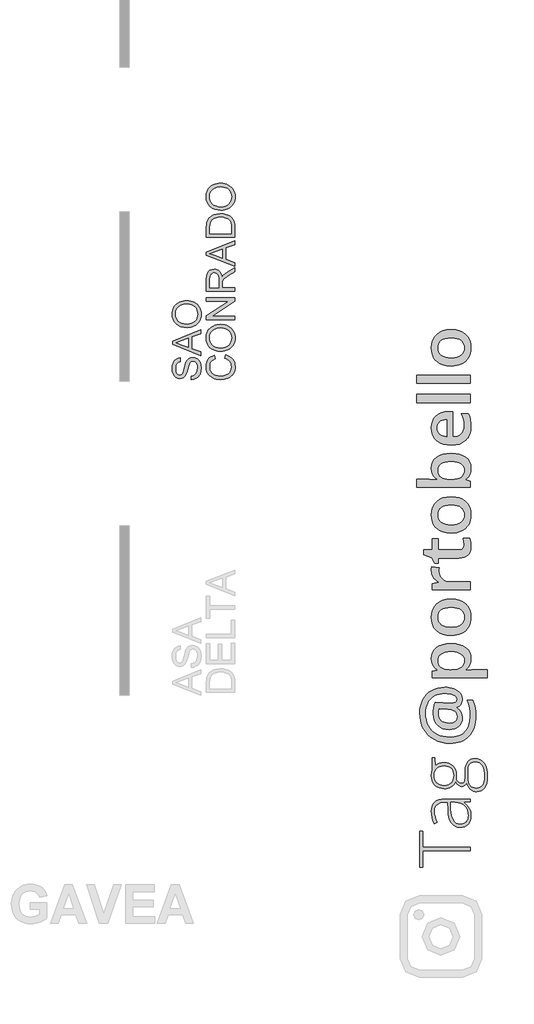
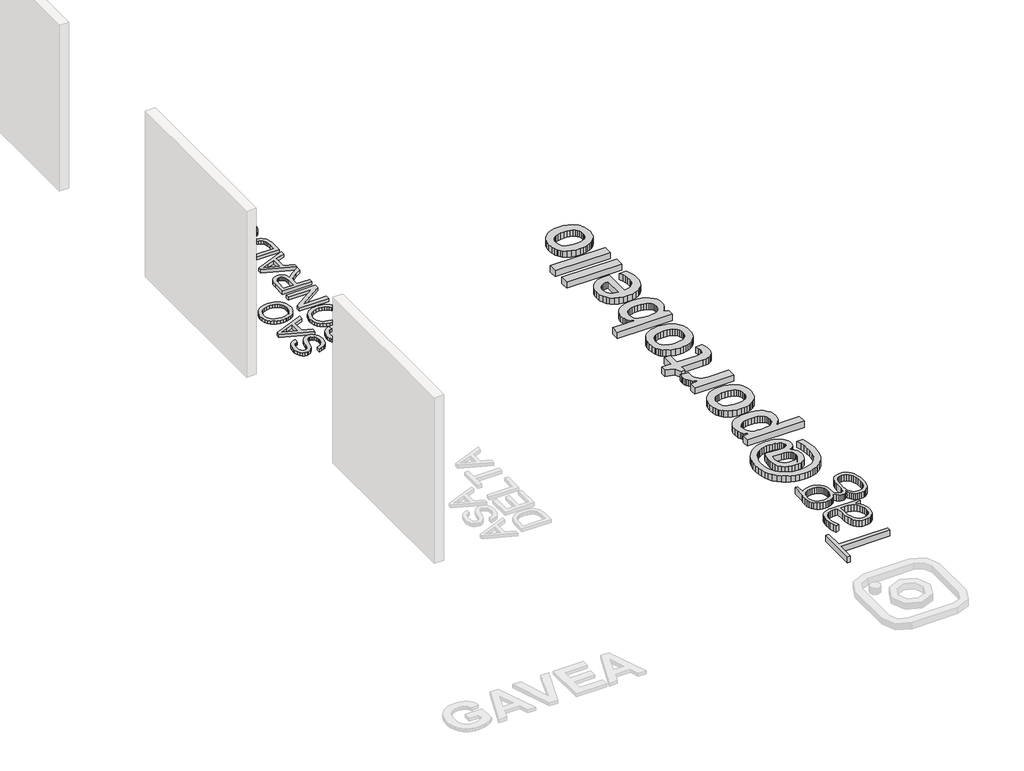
# One storey, part 4 of 7: 3 proxies.
"""IFC4 building model written with IfcOpenShell, lengths in millimetres."""

from ifc_helpers import new_model, si_unit, origin, origin_with_axes, place, context, project, spatial, polyline, outline, extrude, element, save

model = new_model("IFC4")

# Units and contexts
model_context = context("Model", 3, world=origin())
ifc_project = project(units=[si_unit("LENGTHUNIT", "METRE", prefix="MILLI")], contexts=[model_context])

# Site, building, storey
site = spatial("IfcSite", under=ifc_project)
building = spatial("IfcBuilding", under=site)
storey = spatial("IfcBuildingStorey", under=building, Name="PORTOBELLO - SHOWROOM", Elevation=0.0)

# Proxies
placement = place(None, origin())
element("IfcBuildingElementProxy", 1, Name="450mm Arial", ObjectType="450mm Arial", at=placement, inside=storey, context=model_context, shape_type="SweptSolid", body=[
    extrude(outline(polyline([(48093.7700581, -4146.9231835), (48093.7700581, -4090.7161656), (48124.9611107, -4084.2666299), (48150.0319656, -4072.6025759), (48169.9294695, -4054.4066517), (48185.6004691, -4028.3615052), (48195.7687797, -3996.525499), (48199.1582166, -3960.9569955), (48196.5921247, -3929.6424411), (48188.8938491, -3902.225053), (48176.7083432, -3880.0084608), (48160.6805608, -3864.2962939), (48142.2788003, -3854.9513283), (48122.9713604, -3851.8363398), (48104.1579274, -3854.1691506), (48087.8968639, -3861.167583), (48074.0235008, -3875.3840064), (48062.3731692, -3899.3707904), (48040.9113099, -3981.2112822), (48026.7086088, -4034.9345427), (48013.1920286, -4069.3091959), (47994.2825387, -4097.2892031), (47971.3661032, -4117.1180949), (47944.9367291, -4128.9330955), (47915.4884234, -4132.871429), (47882.5683463, -4127.9999712), (47851.8713006, -4113.3855976), (47825.853599, -4089.4125361), (47806.9715539, -4056.4650141), (47795.4858913, -4016.9170099), (47791.6573372, -3973.1425013), (47795.6642828, -3925.71783), (47807.6851196, -3884.2212426), (47827.4728441, -3850.1347601), (47854.7804529, -3824.9404035), (47887.9063663, -3808.9949556), (47925.1490046, -3802.6551991), (47925.1490046, -3858.862217), (47907.2138062, -3862.6221591), (47891.6114187, -3869.1814742), (47878.341842, -3878.5401622), (47867.4050761, -3890.6982232), (47858.8560106, -3905.882077), (47852.7495353, -3924.3181435), (47847.864355, -3970.9469147), (47852.6946456, -4018.6734792), (47858.7325088, -4036.9174319), (47867.1855174, -4051.4151649), (47888.5101526, -4070.3520996), (47900.6750748, -4075.0863333), (47913.8417334, -4076.6644112), (47935.4408169, -4072.1909034), (47952.8133962, -4058.7703801), (47968.3471716, -4027.0441532), (47984.210285, -3966.9948588), (47999.2774983, -3905.024426), (48012.4235733, -3867.5347842), (48032.8150842, -3835.4929418), (48057.981996, -3813.1391253), (48087.6498604, -3800.0067728), (48121.544229, -3795.6293219), (48156.1933306, -3800.6654488), (48188.7840697, -3815.7738293), (48216.832689, -3840.3369548), (48237.855431, -3873.7373164), (48250.9877836, -3913.9028294), (48255.3652344, -3958.7614089), (48250.6447232, -4013.8294662), (48236.4831894, -4059.1546078), (48225.8483166, -4078.2939481), (48212.8257434, -4095.2582855), (48197.4154697, -4110.0476198), (48179.6174955, -4122.6619512), (48139.1638118, -4140.2540891), (48093.7700581, -4146.9231835)])), origin_with_axes(), (0.0, 0.0, 1.0), 50.0),
    extrude(outline(polyline([(48248.3393572, -3763.6835364), (47798.6832144, -3584.194329), (47798.6832144, -3536.3305403), (48248.3393572, -3356.8413329), (48248.3393572, -3416.2319514), (48107.8218126, -3467.718458), (48107.8218126, -3652.9161906), (48248.3393572, -3704.2929179), (48248.3393572, -3763.6835364)]), holes=[polyline([(48051.6147947, -3632.2776763), (48051.6147947, -3488.247193), (47941.0670077, -3528.7557664), (47854.8902322, -3560.2624347), (47931.4064265, -3588.2561643), (48051.6147947, -3632.2776763)])]), origin_with_axes(), (0.0, 0.0, 1.0), 50.0),
    extrude(outline(polyline([(48029.4393697, -3317.8696702), (47976.697262, -3314.1234505), (47930.00674, -3302.8847914), (47889.3678036, -3284.1536929), (47854.7804529, -3257.930155), (47827.1640898, -3225.7853945), (47807.4381161, -3189.2906279), (47795.6025319, -3148.4458552), (47791.6573372, -3103.2510766), (47793.5098634, -3073.0000095), (47799.067442, -3044.2721306), (47808.3300732, -3017.06744), (47821.2977567, -2991.3859376), (47837.5794039, -2967.9480502), (47856.7839257, -2947.4742049), (47878.9113223, -2929.9644015), (47903.9615935, -2915.41864), (47931.3652592, -2903.9878671), (47960.552839, -2895.8230293), (47991.524333, -2890.9241266), (48024.2797411, -2889.291159), (48057.4674053, -2891.0098917), (48088.857433, -2896.1660897), (48118.4498241, -2904.759753), (48146.2445787, -2916.7908816), (48171.5075474, -2931.9747355), (48193.504581, -2950.0265743), (48212.2356795, -2970.9463982), (48227.7008428, -2994.7342072), (48239.8040142, -3020.4534462), (48248.4491365, -3047.1675605), (48253.63621, -3074.87655), (48255.3652344, -3103.5804146), (48253.4543879, -3134.3597947), (48247.7218485, -3163.4650401), (48238.167616, -3190.8961506), (48224.7916905, -3216.6531263), (48208.1120933, -3240.0635688), (48188.6468456, -3260.4550797), (48166.3959473, -3277.8276589), (48141.3593984, -3292.1813065), (48114.542366, -3303.4199656), (48086.9500171, -3311.4475793), (48058.5823517, -3316.2641474), (48029.4393697, -3317.8696702)]), holes=[polyline([(48029.9882664, -3261.6626523), (48067.2514883, -3258.8529875), (48100.3293732, -3250.4239932), (48129.2219211, -3236.3756694), (48153.9291319, -3216.708016), (48173.7168565, -3192.8001359), (48187.8509454, -3166.031132), (48196.3313988, -3136.4010042), (48199.1582166, -3103.9097526), (48196.303954, -3070.8627431), (48187.7411661, -3040.8826938), (48173.469853, -3013.9696045), (48153.4900146, -2990.1234753), (48128.2613519, -2970.5999072), (48098.2435659, -2956.6545015), (48063.4366565, -2948.287258), (48023.8406238, -2945.4981769), (47974.0831417, -2950.2735778), (47931.0770885, -2964.5997806), (47895.9065351, -2988.10628), (47869.6555524, -3020.4225708), (47853.3121543, -3059.407956), (47847.864355, -3102.9217386), (47850.4887672, -3134.2843215), (47858.3620036, -3163.3827056), (47871.4840644, -3190.216891), (47889.8549494, -3214.7868777), (47914.3597546, -3235.2950291), (47945.8835758, -3249.9437087), (47984.4264131, -3258.7329164), (48029.9882664, -3261.6626523)])]), origin_with_axes(), (0.0, 0.0, 1.0), 50.0),
    extrude(outline(polyline([(48628.9327334, -3809.6810764), (48643.4236052, -3753.4740585), (48678.3780305, -3764.5960771), (48708.920699, -3779.4094256), (48735.0516105, -3797.9141043), (48756.7707652, -3820.1101129), (48773.8448819, -3845.4965834), (48786.0406795, -3873.5726474), (48793.3581581, -3904.3383052), (48795.7973176, -3937.7935565), (48793.9516526, -3972.0687223), (48788.4146576, -4002.9887572), (48779.1863325, -4030.5536612), (48766.2666774, -4054.7634345), (48749.8478061, -4075.9508455), (48730.1218324, -4094.4486629), (48707.0887564, -4110.2568867), (48680.7485779, -4123.3755168), (48622.7027563, -4141.0362668), (48560.5402097, -4146.9231835), (48526.6389798, -4145.2593405), (48494.9745038, -4140.2678115), (48465.5467817, -4131.9485965), (48438.3558135, -4120.3016955), (48413.8510083, -4105.5878345), (48392.4817752, -4088.0677393), (48374.2481143, -4067.7414099), (48359.1500256, -4044.6088463), (48347.3110108, -4019.4556569), (48338.8545717, -3993.0674501), (48333.7807082, -3965.4442257), (48332.0894203, -3936.5859839), (48334.2781458, -3904.4377927), (48340.844322, -3874.9586115), (48351.7879492, -3848.1484403), (48367.1090272, -3824.0072792), (48386.4027447, -3802.9330781), (48409.2642905, -3785.3237871), (48435.6936647, -3771.1794064), (48465.6908671, -3760.4999358), (48479.0839455, -3816.7069536), (48438.0950875, -3836.192785), (48422.4275185, -3848.6115719), (48409.9778562, -3862.8142729), (48400.4922358, -3878.8832226), (48393.7167927, -3896.9007554), (48388.2964382, -3938.7815705), (48389.7990428, -3963.9965108), (48394.3068566, -3987.0570316), (48401.8198796, -4007.9631331), (48412.3381118, -4026.7148152), (48425.3881299, -4043.0753663), (48440.4965104, -4056.8080745), (48457.6632534, -4067.9129401), (48476.8883589, -4076.3899628), (48518.0281635, -4087.1346149), (48560.4304304, -4090.7161656), (48612.3560543, -4086.4759389), (48657.255801, -4073.7552589), (48676.6421448, -4064.0946777), (48693.4143683, -4052.0738409), (48707.5724715, -4037.6927484), (48719.1164544, -4020.9514003), (48734.4718384, -3983.6401499), (48739.5902998, -3943.3923024), (48737.8475529, -3918.9561093), (48732.6193122, -3896.4753605), (48723.9055777, -3875.9500561), (48711.7063495, -3857.380196), (48696.0765171, -3841.2048976), (48677.0709703, -3827.8632782), (48654.6897091, -3817.3553378), (48628.9327334, -3809.6810764)])), origin_with_axes(), (0.0, 0.0, 1.0), 50.0),
    extrude(outline(polyline([(48569.8714529, -3697.2670407), (48517.1293452, -3693.520821), (48470.4388232, -3682.2821619), (48429.7998868, -3663.5510634), (48395.2125361, -3637.3275255), (48367.5961729, -3605.182765), (48347.8701993, -3568.6879984), (48336.0346151, -3527.8432258), (48332.0894203, -3482.6484471), (48333.9419466, -3452.39738), (48339.4995252, -3423.6695011), (48348.7621563, -3396.4648105), (48361.7298399, -3370.7833081), (48378.011487, -3347.3454207), (48397.2160089, -3326.8715754), (48419.3434054, -3309.361772), (48444.3936767, -3294.8160105), (48471.7973424, -3283.3852376), (48500.9849222, -3275.2203998), (48531.9564162, -3270.3214971), (48564.7118243, -3268.6885295), (48597.8994885, -3270.4072622), (48629.2895162, -3275.5634602), (48658.8819073, -3284.1571235), (48686.6766619, -3296.1882521), (48711.9396306, -3311.372106), (48733.9366642, -3329.4239448), (48752.6677627, -3350.3437687), (48768.132926, -3374.1315777), (48780.2360973, -3399.8508168), (48788.8812197, -3426.564931), (48794.0682931, -3454.2739205), (48795.7973176, -3482.9777851), (48793.8864711, -3513.7571652), (48788.1539316, -3542.8624106), (48778.5996992, -3570.2935211), (48765.2237737, -3596.0504968), (48748.5441765, -3619.4609393), (48729.0789287, -3639.8524502), (48706.8280304, -3657.2250294), (48681.7914816, -3671.578677), (48654.9744492, -3682.8173361), (48627.3821003, -3690.8449498), (48599.0144349, -3695.6615179), (48569.8714529, -3697.2670407)]), holes=[polyline([(48570.4203495, -3641.0600228), (48607.6835715, -3638.250358), (48640.7614564, -3629.8213637), (48669.6540042, -3615.7730399), (48694.3612151, -3596.1053865), (48714.1489396, -3572.1975064), (48728.2830286, -3545.4285025), (48736.763482, -3515.7983747), (48739.5902998, -3483.3071231), (48736.7360371, -3450.2601136), (48728.1732493, -3420.2800643), (48713.9019361, -3393.366975), (48693.9220978, -3369.5208458), (48668.6934351, -3349.9972777), (48638.6756491, -3336.051872), (48603.8687397, -3327.6846285), (48564.272707, -3324.8955474), (48514.5152249, -3329.6709483), (48471.5091716, -3343.9971511), (48436.3386182, -3367.5036505), (48410.0876355, -3399.8199413), (48393.7442375, -3438.8053265), (48388.2964382, -3482.3191091), (48390.9208503, -3513.681692), (48398.7940868, -3542.7800761), (48411.9161475, -3569.6142615), (48430.2870326, -3594.1842482), (48454.7918378, -3614.6923996), (48486.315659, -3629.3410792), (48524.8584963, -3638.1302869), (48570.4203495, -3641.0600228)])]), origin_with_axes(), (0.0, 0.0, 1.0), 50.0),
    extrude(outline(polyline([(48788.7714404, -3191.40388), (48339.1152976, -3191.40388), (48339.1152976, -3131.2448062), (48695.3492291, -2896.3170363), (48339.1152976, -2896.3170363), (48339.1152976, -2840.1100184), (48788.7714404, -2840.1100184), (48788.7714404, -2900.2690922), (48432.4277295, -3135.1968621), (48788.7714404, -3135.1968621), (48788.7714404, -3191.40388)])), origin_with_axes(), (0.0, 0.0, 1.0), 50.0),
    extrude(outline(polyline([(48788.7714404, -2741.7477372), (48339.1152976, -2741.7477372), (48339.1152976, -2547.9872167), (48342.1479516, -2495.9106462), (48351.2459137, -2458.0230543), (48368.0421515, -2430.3312179), (48394.1696324, -2408.8419137), (48426.5682577, -2395.0508851), (48462.1779284, -2390.4538756), (48485.2727554, -2392.3578609), (48506.4738888, -2398.0698167), (48525.7813288, -2407.5897432), (48543.1950753, -2420.9176402), (48558.1593704, -2438.2250379), (48570.1184564, -2459.6834667), (48579.0723331, -2485.2929264), (48585.0210007, -2515.0534171), (48609.0626743, -2483.1076316), (48666.9163821, -2437.5492089), (48788.7714404, -2362.5699253), (48788.7714404, -2427.8886277), (48695.5687877, -2486.4010116), (48633.8728033, -2528.6660543), (48615.8827153, -2544.3782211), (48604.7263907, -2558.3613635), (48594.0229059, -2585.0926308), (48592.0468779, -2617.6970923), (48592.0468779, -2685.5407193), (48788.7714404, -2685.5407193), (48788.7714404, -2741.7477372)]), holes=[polyline([(48535.83986, -2685.5407193), (48535.83986, -2559.7336052), (48533.8501097, -2523.6024826), (48527.8808585, -2495.5675858), (48517.5341565, -2474.4625092), (48502.4120535, -2459.1208476), (48484.1200724, -2449.775882), (48464.2637358, -2446.6608935), (48449.8895045, -2448.146345), (48436.8463476, -2452.6026998), (48414.7532571, -2470.4281188), (48406.2522201, -2484.0373253), (48400.1800508, -2501.0977196), (48395.3223154, -2545.5720714), (48395.3223154, -2685.5407193), (48535.83986, -2685.5407193)])]), origin_with_axes(), (0.0, 0.0, 1.0), 50.0),
    extrude(outline(polyline([(48788.7714404, -2344.4563356), (48339.1152976, -2164.9671282), (48339.1152976, -2117.1033396), (48788.7714404, -1937.6141322), (48788.7714404, -1997.0047506), (48648.2538958, -2048.4912572), (48648.2538958, -2233.6889899), (48788.7714404, -2285.0657171), (48788.7714404, -2344.4563356)]), holes=[polyline([(48592.0468779, -2213.0504755), (48592.0468779, -2069.0199923), (48481.4990908, -2109.5285657), (48395.3223154, -2141.0352339), (48471.8385096, -2169.0289635), (48592.0468779, -2213.0504755)])]), origin_with_axes(), (0.0, 0.0, 1.0), 50.0),
    extrude(outline(polyline([(48788.7714404, -1877.5648377), (48339.1152976, -1877.5648377), (48339.1152976, -1722.446642), (48340.7345427, -1676.0923191), (48345.5922781, -1642.1979505), (48358.0796771, -1606.3549986), (48377.7576223, -1576.1107927), (48412.0087738, -1545.015797), (48454.6031546, -1522.8678168), (48504.7174195, -1509.6119625), (48561.5282237, -1505.1933444), (48609.7899624, -1508.1848312), (48652.2608414, -1517.1592916), (48688.4194088, -1530.8268184), (48717.7442127, -1547.8975045), (48740.8939293, -1567.5480049), (48758.5272345, -1588.9549746), (48771.6046974, -1613.5318224), (48781.0868872, -1642.6919574), (48786.8503021, -1676.4902692), (48788.7714404, -1714.9816474), (48788.7714404, -1877.5648377)]), holes=[polyline([(48732.5644225, -1821.3578199), (48732.5644225, -1721.8977453), (48730.5335049, -1680.7579407), (48724.440752, -1649.5531657), (48714.6429466, -1626.005499), (48701.4968716, -1607.8370196), (48677.1670272, -1588.310021), (48645.6740815, -1573.6407578), (48606.8808101, -1564.4604612), (48560.649989, -1561.4003623), (48528.0180827, -1562.8995363), (48499.3931219, -1567.3970583), (48474.7751068, -1574.8929283), (48454.1640372, -1585.3871463), (48423.0964863, -1611.967467), (48412.1734428, -1627.2027799), (48404.3242206, -1643.7348611), (48397.5727917, -1676.0648743), (48395.3223154, -1723.4346559), (48395.3223154, -1821.3578199), (48732.5644225, -1821.3578199)])]), origin_with_axes(), (0.0, 0.0, 1.0), 50.0),
    extrude(outline(polyline([(48569.8714529, -1448.9863266), (48517.1293452, -1445.2401069), (48470.4388232, -1434.0014478), (48429.7998868, -1415.2703493), (48395.2125361, -1389.0468115), (48367.5961729, -1356.9020509), (48347.8701993, -1320.4072843), (48336.0346151, -1279.5625117), (48332.0894203, -1234.367733), (48333.9419466, -1204.1166659), (48339.4995252, -1175.388787), (48348.7621563, -1148.1840964), (48361.7298399, -1122.502594), (48378.011487, -1099.0647067), (48397.2160089, -1078.5908613), (48419.3434054, -1061.0810579), (48444.3936767, -1046.5352964), (48471.7973424, -1035.1045235), (48500.9849222, -1026.9396857), (48531.9564162, -1022.040783), (48564.7118243, -1020.4078155), (48597.8994885, -1022.1265481), (48629.2895162, -1027.2827461), (48658.8819073, -1035.8764094), (48686.6766619, -1047.9075381), (48711.9396306, -1063.0913919), (48733.9366642, -1081.1432307), (48752.6677627, -1102.0630547), (48768.132926, -1125.8508636), (48780.2360973, -1151.5701027), (48788.8812197, -1178.2842169), (48794.0682931, -1205.9932064), (48795.7973176, -1234.697071), (48793.8864711, -1265.4764512), (48788.1539316, -1294.5816965), (48778.5996992, -1322.012807), (48765.2237737, -1347.7697827), (48748.5441765, -1371.1802252), (48729.0789287, -1391.5717361), (48706.8280304, -1408.9443153), (48681.7914816, -1423.297963), (48654.9744492, -1434.536622), (48627.3821003, -1442.5642357), (48599.0144349, -1447.3808039), (48569.8714529, -1448.9863266)]), holes=[polyline([(48570.4203495, -1392.7793087), (48607.6835715, -1389.969644), (48640.7614564, -1381.5406496), (48669.6540042, -1367.4923258), (48694.3612151, -1347.8246724), (48714.1489396, -1323.9167923), (48728.2830286, -1297.1477884), (48736.763482, -1267.5176606), (48739.5902998, -1235.026409), (48736.7360371, -1201.9793996), (48728.1732493, -1171.9993502), (48713.9019361, -1145.0862609), (48693.9220978, -1121.2401317), (48668.6934351, -1101.7165636), (48638.6756491, -1087.7711579), (48603.8687397, -1079.4039145), (48564.272707, -1076.6148333), (48514.5152249, -1081.3902342), (48471.5091716, -1095.716437), (48436.3386182, -1119.2229364), (48410.0876355, -1151.5392272), (48393.7442375, -1190.5246124), (48388.2964382, -1234.038395), (48390.9208503, -1265.4009779), (48398.7940868, -1294.499362), (48411.9161475, -1321.3335474), (48430.2870326, -1345.9035341), (48454.7918378, -1366.4116855), (48486.315659, -1381.0603651), (48524.8584963, -1389.8495728), (48570.4203495, -1392.7793087)])]), origin_with_axes(), (0.0, 0.0, 1.0), 50.0),
])
element("IfcBuildingElementProxy", 2, Name="80mm OpenSans Bold", ObjectType="80mm OpenSans Bold", at=placement, inside=storey, context=model_context, shape_type="SweptSolid", body=[
    extrude(outline(polyline([(52135.8156709, -9049.9050274), (52173.9212856, -9051.4523873), (52210.3593571, -9056.0944669), (52245.1298855, -9063.8312662), (52278.2328706, -9074.6627853), (52308.7143578, -9088.3035888), (52335.6203921, -9104.4682415), (52358.9509734, -9123.1567432), (52378.7061018, -9144.369094), (52394.4275786, -9167.7146983), (52405.6572048, -9192.8029603), (52412.3949806, -9219.63388), (52414.6409058, -9248.2074574), (52408.9321995, -9288.8294097), (52401.7963166, -9306.9770867), (52391.8060806, -9323.6825641), (52379.3821329, -9338.3599485), (52364.945115, -9350.4233463), (52348.4950271, -9359.8727576), (52330.031869, -9366.7081822), (52330.031869, -9373.4384465), (52367.0483226, -9403.6044526), (52393.4886466, -9440.2603563), (52409.352841, -9482.6249663), (52414.6409058, -9529.9170913), (52411.0879873, -9572.5821596), (52400.4292317, -9610.4398962), (52382.664639, -9643.4903012), (52357.7942092, -9671.7333746), (52326.8545233, -9694.3428562), (52290.882162, -9710.4924859), (52249.8771254, -9720.1822637), (52203.8394136, -9723.4121897), (52150.6958646, -9719.1306599), (52102.7953117, -9706.2860707), (52060.1377549, -9684.878422), (52022.7231942, -9654.9077139), (51992.2792643, -9617.7260082), (51970.5336001, -9574.6853672), (51957.4862016, -9525.7857907), (51953.1370687, -9471.0272788), (51954.9698639, -9426.7096902), (51960.4682495, -9377.8852283), (51969.2115839, -9329.6616828), (51980.7792256, -9287.1468437), (52231.9623036, -9299.4055393), (52244.7017325, -9299.4055393), (52282.5594691, -9295.8000406), (52309.6007096, -9284.9835444), (52319.0651437, -9276.8711723), (52325.8254538, -9266.9560508), (52331.2337019, -9241.7175597), (52327.7709209, -9220.9634076), (52317.3825777, -9202.4476694), (52300.0686723, -9186.1703449), (52275.8292048, -9172.1314342), (52246.226558, -9160.8266934), (52212.8231146, -9152.7518786), (52175.6188746, -9147.9069897), (52134.613838, -9146.2920267), (52089.5225695, -9148.7107154), (52047.2706313, -9155.9667816), (52007.8580234, -9168.0602253), (51971.2847456, -9184.9910464), (51938.1442032, -9206.3836722), (51909.029801, -9231.8625298), (51883.941539, -9261.4276194), (51862.8794172, -9295.0789409), (51846.2114971, -9332.0803715), (51834.3058398, -9371.6957888), (51827.1624455, -9413.9251927), (51824.781314, -9458.7685831), (51827.7708734, -9515.7429744), (51836.7395515, -9568.8865234), (51851.6873483, -9618.1992299), (51872.6142638, -9663.6810941), (51899.0921451, -9704.6711078), (51930.6928391, -9740.5082628), (51967.416346, -9771.1925593), (52009.2626656, -9796.7239971), (52055.4506066, -9816.8096296), (52105.1989775, -9831.15651), (52158.5077785, -9839.7646382), (52215.3770095, -9842.6340143), (52289.5526344, -9837.2783464), (52354.6393978, -9821.2113427), (52383.7744566, -9809.1610899), (52410.6373, -9794.4330032), (52435.227928, -9777.0270825), (52457.5463407, -9756.9433278), (52477.4047516, -9734.3582585), (52494.6153745, -9709.4483936), (52509.1782092, -9682.2137331), (52521.0932558, -9652.6542772), (52536.9799845, -9586.5609786), (52542.2755608, -9511.1684979), (52539.180841, -9449.454378), (52529.8966818, -9386.418242), (52514.4230831, -9322.0600897), (52492.7600449, -9256.3799212), (52582.8975131, -9256.3799212), (52603.5089475, -9315.6002378), (52618.2314006, -9377.4044951), (52627.0648725, -9441.7926932), (52630.0093632, -9508.7648321), (52628.313652, -9558.3798747), (52623.2265187, -9605.1893887), (52614.7479631, -9649.1933739), (52602.8779852, -9690.3918305), (52587.6165851, -9728.7847584), (52568.9637628, -9764.3721575), (52546.9195183, -9797.154028), (52521.4838515, -9827.1303697), (52493.0135566, -9853.9180986), (52461.8654277, -9877.1341302), (52428.0394649, -9896.7784647), (52391.5356682, -9912.851102), (52352.3540375, -9925.3520421), (52310.4945728, -9934.281285), (52265.9572742, -9939.6388308), (52218.7421416, -9941.4246794), (52149.6743066, -9937.5637912), (52084.5274515, -9925.9811265), (52023.3015762, -9906.6766854), (51965.9966808, -9879.6504679), (51913.8972242, -9845.7738027), (51868.2876653, -9805.9180189), (51829.1680041, -9760.0831163), (51796.5382407, -9708.269095), (51770.8265279, -9651.6477421), (51752.4610187, -9591.3908446), (51741.4417132, -9527.4984026), (51737.7686114, -9459.970416), (51740.8332853, -9401.749123), (51750.0273071, -9346.7878018), (51765.3506767, -9295.0864523), (51786.8033941, -9246.6450746), (51813.9197491, -9202.4626923), (51846.2340314, -9163.5383289), (51883.7462411, -9129.8719846), (51926.4563781, -9101.4636592), (51973.5231594, -9078.9067578), (52024.105302, -9062.7946853), (52078.2028058, -9053.1274419), (52135.8156709, -9049.9050274)]), holes=[polyline([(52205.7623462, -9618.1316268), (52235.1696952, -9616.542954), (52260.6560643, -9611.7769353), (52282.2214536, -9603.8335709), (52299.865863, -9592.7128608), (52313.5892925, -9578.4148049), (52323.3917422, -9560.9394033), (52329.273212, -9540.2866559), (52331.2337019, -9516.4565627), (52328.7699445, -9491.1730029), (52321.3786721, -9468.9240712), (52309.0598848, -9449.7097675), (52291.8135825, -9433.530092), (52269.6397653, -9420.3850445), (52242.5384332, -9410.2746252), (52210.5095862, -9403.1988339), (52173.5532243, -9399.1576708), (52044.957103, -9392.4274065), (52038.1066554, -9428.7227604), (52035.8231729, -9467.42178), (52038.6850375, -9501.0355442), (52047.2706313, -9530.7283285), (52061.5799544, -9556.500133), (52081.6130067, -9578.3509575), (52106.5435281, -9595.7550004), (52135.5452585, -9608.1864595), (52168.6181979, -9615.645335), (52205.7623462, -9618.1316268)])]), origin_with_axes(), (0.0, 0.0, 1.0), 100.0),
    extrude(outline(polyline([(52553.092057, -8591.2855893), (52547.8941296, -8644.8422683), (52532.3003476, -8692.0592787), (52506.310711, -8732.9366205), (52469.9252197, -8767.4742937), (52469.9252197, -8775.1660244), (52563.9085531, -8767.4742937), (52814.610898, -8767.4742937), (52814.610898, -8896.3107816), (51937.7536075, -8896.3107816), (51937.7536075, -8791.9916851), (52014.9112802, -8773.9641914), (52014.9112802, -8767.4742937), (51993.221952, -8751.6439009), (51974.4245341, -8733.9581785), (51958.5190267, -8714.4171265), (51945.5054297, -8693.020745), (51935.3837432, -8669.769034), (51928.1539671, -8644.6619933), (51922.3701462, -8588.8819234), (51927.5305163, -8536.07639), (51943.0116265, -8489.4302502), (51968.8134767, -8448.9435041), (52004.9360671, -8414.6161516), (52050.3728625, -8387.2744529), (52104.1173279, -8367.7446682), (52166.1694633, -8356.0267973), (52236.5292687, -8352.1208403), (52307.0618376, -8356.0944004), (52369.3918968, -8368.0150806), (52423.5194464, -8387.8828808), (52469.4444865, -8415.6978012), (52506.0402986, -8450.5133983), (52532.1801643, -8491.3832287), (52547.8640838, -8538.3072923), (52553.092057, -8591.2855893)]), holes=[polyline([(52030.0543749, -8622.7736115), (52032.8486364, -8657.859621), (52041.231421, -8687.8829093), (52055.2027285, -8712.8434766), (52074.7625591, -8732.7413227), (52100.4517376, -8747.9369975), (52132.8110886, -8758.791051), (52171.8406124, -8765.303483), (52217.5403087, -8767.4742937), (52236.5292687, -8767.4742937), (52287.8775797, -8765.3260174), (52331.5942518, -8758.8811884), (52367.6792849, -8748.1398068), (52396.132679, -8733.1018725), (52417.6905568, -8713.1814921), (52433.089041, -8687.7927719), (52442.3281315, -8656.9357119), (52445.4078283, -8620.6103122), (52441.9976274, -8589.6856492), (52431.7670248, -8562.5317369), (52414.7160204, -8539.1485754), (52390.8446142, -8519.5361646), (52360.6786082, -8504.0250086), (52324.7438042, -8492.9456115), (52283.0402023, -8486.2979732), (52235.5678024, -8484.0820938), (52187.9376619, -8486.2829503), (52146.481938, -8492.8855198), (52111.2006306, -8503.8898024), (52082.0937399, -8519.295798), (52059.3265177, -8538.9683004), (52043.0642161, -8562.7721035), (52033.3068352, -8590.7072072), (52030.0543749, -8622.7736115)])]), origin_with_axes(), (0.0, 0.0, 1.0), 100.0),
    extrude(outline(polyline([(52236.5292687, -7644.0008903), (52307.0618376, -7648.8082219), (52369.3918968, -7663.2302168), (52423.5194464, -7687.266875), (52469.4444865, -7720.9181964), (52489.0493858, -7741.0902107), (52506.0402986, -7763.1476003), (52520.4172247, -7787.0903653), (52532.1801643, -7812.9185056), (52547.8640838, -7870.2309125), (52553.092057, -7935.0848209), (52550.6808797, -7976.7358426), (52543.4473479, -8015.8780382), (52531.3914615, -8052.5114075), (52514.5132206, -8086.6359507), (52493.1356177, -8117.6131939), (52467.5816455, -8144.8046635), (52437.8513039, -8168.2103594), (52403.9445929, -8187.8302817), (52366.4849635, -8203.3414376), (52326.0958663, -8214.4208348), (52282.7773013, -8221.068473), (52236.5292687, -8223.2843525), (52166.560059, -8218.5145781), (52104.7182444, -8204.205255), (52051.0038248, -8180.3563833), (52005.4168003, -8146.9679627), (51985.9527407, -8126.9104982), (51969.0838891, -8104.8962995), (51954.8102455, -8080.9253665), (51943.1318097, -8054.9976994), (51927.5605621, -7997.2721625), (51922.3701462, -7931.7196887), (51927.6882569, -7868.8262703), (51943.6425887, -7812.8283682), (51970.2331419, -7763.7259824), (52007.4599162, -7721.5191129), (52053.6854145, -7687.6048905), (52107.2721393, -7663.3804459), (52168.2200907, -7648.8457792), (52236.5292687, -7644.0008903)]), holes=[polyline([(52236.5292687, -8090.6019993), (52285.4851811, -8088.1382418), (52327.9136385, -8080.7469694), (52363.814641, -8068.4281821), (52393.1881884, -8051.1818799), (52416.0342809, -8029.0080627), (52432.3529183, -8001.9067306), (52442.1441008, -7969.8778836), (52445.4078283, -7932.9215216), (52442.1441008, -7896.3031752), (52432.3529183, -7864.5672749), (52416.0342809, -7837.7138209), (52393.1881884, -7815.742813), (52363.814641, -7798.6542513), (52327.9136385, -7786.4481358), (52285.4851811, -7779.1244665), (52236.5292687, -7776.6832434), (52188.1367155, -7779.1394894), (52146.1965027, -7786.5082275), (52110.7086303, -7798.7894575), (52081.6730984, -7815.9831796), (52059.0899068, -7838.0893936), (52042.9590558, -7865.1080997), (52033.2805451, -7897.0392978), (52030.0543749, -7933.882988), (52033.3894612, -7972.2740379), (52043.3947202, -8005.0014504), (52060.0701518, -8032.0652252), (52083.4157561, -8053.4653624), (52112.9958685, -8069.7126411), (52148.3748248, -8081.3178401), (52189.5526249, -8088.2809595), (52236.5292687, -8090.6019993)])]), origin_with_axes(), (0.0, 0.0, 1.0), 100.0),
    extrude(outline(polyline([(51922.3701462, -7193.3135493), (51923.7522541, -7158.6406699), (51927.8985776, -7130.5778715), (52048.0818685, -7142.8365671), (52043.0341703, -7170.2383575), (52041.3516043, -7198.6016141), (52044.4913927, -7234.6566014), (52053.9107582, -7267.10609), (52069.6097005, -7295.9500798), (52091.5882199, -7321.1885709), (52118.5843916, -7341.6948449), (52149.3362911, -7356.3421835), (52183.8439185, -7365.1305866), (52222.1072738, -7368.0600543), (52537.7085957, -7368.0600543), (52537.7085957, -7496.8965422), (51937.7536075, -7496.8965422), (51937.7536075, -7395.9425778), (52039.9094048, -7378.8765505), (52039.9094048, -7372.3866528), (52014.2652951, -7356.5900615), (51991.4154469, -7338.5250106), (51971.3598602, -7318.1915), (51954.098535, -7295.5895299), (51940.2173649, -7271.3951311), (51930.3022434, -7246.2843348), (51924.3531705, -7220.2571409), (51922.3701462, -7193.3135493)])), origin_with_axes(), (0.0, 0.0, 1.0), 100.0),
    extrude(outline(polyline([(52445.4078283, -6774.3545972), (52441.7422379, -6726.4615558), (52430.7454668, -6678.4483311), (52530.4975983, -6678.4483311), (52539.3310702, -6703.206089), (52546.6021593, -6734.213378), (52551.4695825, -6768.9463491), (52553.092057, -6804.8811531), (52550.0574289, -6848.2598097), (52540.9535446, -6885.8546453), (52525.7804041, -6917.6656602), (52504.5380074, -6943.6928541), (52477.2263546, -6963.9362272), (52443.8454455, -6978.3957794), (52404.3952803, -6987.0715107), (52358.8758588, -6989.9634211), (52030.0543749, -6989.9634211), (52030.0543749, -7073.6109916), (51975.971894, -7073.6109916), (51931.2637098, -6983.9542566), (51799.3024563, -6939.9671721), (51799.3024563, -6860.4058335), (51937.7536075, -6860.4058335), (51937.7536075, -6684.6978622), (52030.0543749, -6684.6978622), (52030.0543749, -6860.4058335), (52354.5492604, -6860.4058335), (52376.2348329, -6858.9260767), (52394.9008003, -6854.4868064), (52410.5471625, -6847.0880226), (52423.1739195, -6836.7297252), (52432.9012546, -6823.9527391), (52439.8493511, -6809.297889), (52445.4078283, -6774.3545972)])), origin_with_axes(), (0.0, 0.0, 1.0), 100.0),
    extrude(outline(polyline([(52236.5292687, -6013.3539991), (52307.0618376, -6018.1613308), (52369.3918968, -6032.5833257), (52423.5194464, -6056.6199839), (52469.4444865, -6090.2713053), (52489.0493858, -6110.4433195), (52506.0402986, -6132.5007092), (52520.4172247, -6156.4434741), (52532.1801643, -6182.2716145), (52547.8640838, -6239.5840214), (52553.092057, -6304.4379297), (52550.6808797, -6346.0889515), (52543.4473479, -6385.231147), (52531.3914615, -6421.8645164), (52514.5132206, -6455.9890596), (52493.1356177, -6486.9663028), (52467.5816455, -6514.1577724), (52437.8513039, -6537.5634683), (52403.9445929, -6557.1833905), (52366.4849635, -6572.6945465), (52326.0958663, -6583.7739436), (52282.7773013, -6590.4215819), (52236.5292687, -6592.6374613), (52166.560059, -6587.867687), (52104.7182444, -6573.5583639), (52051.0038248, -6549.7094921), (52005.4168003, -6516.3210716), (51985.9527407, -6496.2636071), (51969.0838891, -6474.2494083), (51954.8102455, -6450.2784754), (51943.1318097, -6424.3508082), (51927.5605621, -6366.6252713), (51922.3701462, -6301.0727976), (51927.6882569, -6238.1793792), (51943.6425887, -6182.181477), (51970.2331419, -6133.0790912), (52007.4599162, -6090.8722218), (52053.6854145, -6056.9579994), (52107.2721393, -6032.7335548), (52168.2200907, -6018.198888), (52236.5292687, -6013.3539991)]), holes=[polyline([(52236.5292687, -6459.9551082), (52285.4851811, -6457.4913507), (52327.9136385, -6450.1000783), (52363.814641, -6437.781291), (52393.1881884, -6420.5349887), (52416.0342809, -6398.3611716), (52432.3529183, -6371.2598395), (52442.1441008, -6339.2309924), (52445.4078283, -6302.2746305), (52442.1441008, -6265.656284), (52432.3529183, -6233.9203838), (52416.0342809, -6207.0669297), (52393.1881884, -6185.0959218), (52363.814641, -6168.0073602), (52327.9136385, -6155.8012447), (52285.4851811, -6148.4775754), (52236.5292687, -6146.0363523), (52188.1367155, -6148.4925983), (52146.1965027, -6155.8613363), (52110.7086303, -6168.1425664), (52081.6730984, -6185.3362884), (52059.0899068, -6207.4425025), (52042.9590558, -6234.4612086), (52033.2805451, -6266.3924067), (52030.0543749, -6303.2360968), (52033.3894612, -6341.6271468), (52043.3947202, -6374.3545592), (52060.0701518, -6401.418334), (52083.4157561, -6422.8184713), (52112.9958685, -6439.0657499), (52148.3748248, -6450.6709489), (52189.5526249, -6457.6340684), (52236.5292687, -6459.9551082)])]), origin_with_axes(), (0.0, 0.0, 1.0), 100.0),
    extrude(outline(polyline([(51922.3701462, -5558.3400597), (51927.5305163, -5505.5345263), (51943.0116265, -5458.8883865), (51968.8134767, -5418.4016404), (52004.9360671, -5384.0742879), (52050.3728625, -5356.7325892), (52104.1173279, -5337.2028044), (52166.1694633, -5325.4849336), (52236.5292687, -5321.5789766), (52307.2571354, -5325.5300023), (52369.692355, -5337.3830794), (52423.8349276, -5357.1382078), (52469.6848531, -5384.7953876), (52506.1755048, -5419.48329), (52532.240256, -5460.330586), (52547.8791067, -5507.3372756), (52553.092057, -5560.503359), (52547.8941296, -5614.1651984), (52532.3003476, -5661.4573233), (52506.310711, -5702.3797339), (52469.9252197, -5736.93243), (52469.9252197, -5745.585627), (52537.7085957, -5769.141552), (52537.7085957, -5865.7689179), (51691.6182277, -5865.7689179), (51691.6182277, -5736.93243), (51891.6032238, -5736.93243), (51957.5838505, -5739.0957293), (52013.2287142, -5742.2204948), (52013.2287142, -5736.93243), (51991.9337373, -5720.8917164), (51973.4780907, -5703.0557649), (51957.8617743, -5683.4245755), (51945.0847882, -5661.9981481), (51935.1471324, -5638.7764829), (51928.0488067, -5613.7595797), (51922.3701462, -5558.3400597)]), holes=[polyline([(52030.0543749, -5592.2317478), (52032.9012166, -5627.775956), (52041.4417417, -5657.9720079), (52055.6759502, -5682.8199033), (52075.6038422, -5702.3196422), (52102.2019067, -5717.102187), (52136.4466332, -5727.7984999), (52178.3380215, -5734.4085809), (52227.8760718, -5736.93243), (52236.5292687, -5736.93243), (52287.8775797, -5734.7841537), (52331.5942518, -5728.3393247), (52367.6792849, -5717.5979431), (52396.132679, -5702.5600088), (52417.6905568, -5682.6396284), (52433.089041, -5657.2509081), (52442.3281315, -5626.3938482), (52445.4078283, -5590.0684485), (52442.0351847, -5558.5578919), (52431.9172539, -5531.0884985), (52415.0540359, -5507.6602682), (52391.4455307, -5488.2732011), (52361.4673111, -5473.0775263), (52325.4949498, -5462.2234728), (52283.5284469, -5455.7110407), (52235.5678024, -5453.54023), (52187.4005928, -5455.707285), (52145.6556779, -5462.2084499), (52110.3330575, -5473.0437247), (52081.4327318, -5488.2131095), (52058.9547006, -5507.7166042), (52042.8989641, -5531.5542088), (52033.2655222, -5559.7259233), (52030.0543749, -5592.2317478)])]), origin_with_axes(), (0.0, 0.0, 1.0), 100.0),
    extrude(outline(polyline([(52553.092057, -4892.7649946), (52547.916664, -4959.5793929), (52532.3904851, -5018.6870377), (52520.7458509, -5045.3508275), (52506.5135203, -5070.0879289), (52489.6934931, -5092.898342), (52470.2857695, -5113.7820666), (52424.9691574, -5148.6427324), (52371.8256084, -5173.543208), (52310.8551227, -5188.4834934), (52242.0577001, -5193.4635885), (52171.5251312, -5188.8440433), (52108.9547054, -5174.9854075), (52054.3464226, -5151.8876813), (52007.7002828, -5119.5508646), (51970.3683481, -5079.1317216), (51943.7026804, -5031.7870164), (51927.7032798, -4977.5167491), (51922.3701462, -4916.3209197), (51926.8619967, -4859.6019178), (51940.3375482, -4809.14747), (51962.7968007, -4764.9575762), (51994.2397542, -4727.0322365), (52033.5547133, -4696.5883066), (52079.6299824, -4674.8426424), (52132.4655617, -4661.7952439), (52192.0614511, -4657.446111), (52260.8062935, -4657.446111), (52260.8062935, -5060.7812353), (52302.7051933, -5056.8151867), (52339.4662574, -5047.5610733), (52371.0894858, -5033.0188951), (52397.5748785, -5013.1886521), (52418.5017941, -4988.4308942), (52433.4495909, -4959.1061712), (52442.4182689, -4925.2144832), (52445.4078283, -4886.7558301), (52442.8839792, -4834.9868775), (52435.3124319, -4786.8835153), (52421.8519033, -4738.9003364), (52401.6611104, -4687.4919338), (52509.5857057, -4687.4919338), (52529.8966818, -4734.8741962), (52543.2370271, -4782.7972834), (52550.6282995, -4834.3859611), (52553.092057, -4892.7649946)]), holes=[polyline([(52014.6709137, -4916.5612862), (52017.1271597, -4945.5780395), (52024.4958977, -4971.5751877), (52036.7771277, -4994.5527306), (52053.9708498, -5014.5106683), (52075.8667431, -5031.1034739), (52102.2544869, -5043.9856204), (52133.1340812, -5053.1571078), (52168.505526, -5058.6179361), (52168.505526, -4784.1192996), (52132.9387834, -4786.8309351), (52101.9540287, -4793.7640087), (52075.551262, -4804.9185204), (52053.7304832, -4820.2944702), (52036.6419215, -4839.4261478), (52024.4358061, -4861.847843), (52017.1121368, -4887.5595558), (52014.6709137, -4916.5612862)])]), origin_with_axes(), (0.0, 0.0, 1.0), 100.0),
    extrude(outline(polyline([(52537.7085957, -4383.6685743), (52537.7085957, -4512.5050622), (51691.6182277, -4512.5050622), (51691.6182277, -4383.6685743), (52537.7085957, -4383.6685743)])), origin_with_axes(), (0.0, 0.0, 1.0), 100.0),
    extrude(outline(polyline([(52537.7085957, -4075.9993496), (52537.7085957, -4204.8358374), (51691.6182277, -4204.8358374), (51691.6182277, -4075.9993496), (52537.7085957, -4075.9993496)])), origin_with_axes(), (0.0, 0.0, 1.0), 100.0),
    extrude(outline(polyline([(52236.5292687, -3352.0152051), (52307.0618376, -3356.8225367), (52369.3918968, -3371.2445316), (52423.5194464, -3395.2811898), (52469.4444865, -3428.9325113), (52489.0493858, -3449.1045255), (52506.0402986, -3471.1619151), (52520.4172247, -3495.1046801), (52532.1801643, -3520.9328205), (52547.8640838, -3578.2452273), (52553.092057, -3643.0991357), (52550.6808797, -3684.7501575), (52543.4473479, -3723.892353), (52531.3914615, -3760.5257224), (52514.5132206, -3794.6502655), (52493.1356177, -3825.6275088), (52467.5816455, -3852.8189783), (52437.8513039, -3876.2246743), (52403.9445929, -3895.8445965), (52366.4849635, -3911.3557525), (52326.0958663, -3922.4351496), (52282.7773013, -3929.0827879), (52236.5292687, -3931.2986673), (52166.560059, -3926.528893), (52104.7182444, -3912.2195699), (52051.0038248, -3888.3706981), (52005.4168003, -3854.9822776), (51985.9527407, -3834.924813), (51969.0838891, -3812.9106143), (51954.8102455, -3788.9396814), (51943.1318097, -3763.0120142), (51927.5605621, -3705.2864773), (51922.3701462, -3639.7340036), (51927.6882569, -3576.8405851), (51943.6425887, -3520.842683), (51970.2331419, -3471.7402972), (52007.4599162, -3429.5334277), (52053.6854145, -3395.6192053), (52107.2721393, -3371.3947608), (52168.2200907, -3356.860094), (52236.5292687, -3352.0152051)]), holes=[polyline([(52236.5292687, -3798.6163141), (52285.4851811, -3796.1525567), (52327.9136385, -3788.7612843), (52363.814641, -3776.442497), (52393.1881884, -3759.1961947), (52416.0342809, -3737.0223775), (52432.3529183, -3709.9210454), (52442.1441008, -3677.8921984), (52445.4078283, -3640.9358365), (52442.1441008, -3604.31749), (52432.3529183, -3572.5815898), (52416.0342809, -3545.7281357), (52393.1881884, -3523.7571278), (52363.814641, -3506.6685661), (52327.9136385, -3494.4624507), (52285.4851811, -3487.1387814), (52236.5292687, -3484.6975583), (52188.1367155, -3487.1538043), (52146.1965027, -3494.5225423), (52110.7086303, -3506.8037723), (52081.6730984, -3523.9974944), (52059.0899068, -3546.1037085), (52042.9590558, -3573.1224146), (52033.2805451, -3605.0536127), (52030.0543749, -3641.8973028), (52033.3894612, -3680.2883528), (52043.3947202, -3713.0157652), (52060.0701518, -3740.07954), (52083.4157561, -3761.4796773), (52112.9958685, -3777.7269559), (52148.3748248, -3789.3321549), (52189.5526249, -3796.2952743), (52236.5292687, -3798.6163141)])]), origin_with_axes(), (0.0, 0.0, 1.0), 100.0),
])
element("IfcBuildingElementProxy", 3, Name="80mm OpenSans Light", ObjectType="80mm OpenSans Light", at=placement, inside=storey, context=model_context, shape_type="SweptSolid", body=[
    extrude(outline(polyline([(52537.7085957, -11599.7446899), (52537.7085957, -11656.2308367), (51783.9189951, -11656.2308367), (51783.9189951, -11914.8652787), (51737.7686114, -11914.8652787), (51737.7686114, -11341.3506145), (51783.9189951, -11341.3506145), (51783.9189951, -11599.7446899), (52537.7085957, -11599.7446899)])), origin_with_axes(), (0.0, 0.0, 1.0), 100.0),
    extrude(outline(polyline([(52537.7085957, -10869.7513809), (52442.0426962, -10883.4522761), (52442.0426962, -10887.7788746), (52470.2181664, -10910.6512571), (52493.931832, -10933.8391208), (52513.1836929, -10957.3424656), (52527.9737492, -10981.1612916), (52538.9630088, -11006.2270192), (52546.81248, -11033.471069), (52551.5221627, -11062.8934409), (52553.092057, -11094.4941349), (52550.2001465, -11136.3780118), (52541.5244152, -11173.3343738), (52527.064863, -11205.3632208), (52506.82149, -11232.4645529), (52481.470327, -11254.0224307), (52451.6874053, -11269.4209149), (52417.4727246, -11278.6600054), (52378.8262851, -11281.7397022), (52336.6043928, -11277.1502028), (52299.355084, -11263.3817045), (52267.078359, -11240.4342074), (52239.7742176, -11208.3077114), (52217.8783242, -11167.4979727), (52201.8263434, -11118.5007473), (52191.6182752, -11061.3160352), (52187.2541194, -10995.9438364), (52183.8889873, -10881.2889769), (52143.5074015, -10881.2889769), (52102.8854492, -10883.467299), (52067.5515617, -10890.0022654), (52037.5057389, -10900.8938762), (52012.747981, -10916.1421312), (51993.3984712, -10936.2427866), (51979.5773927, -10961.6915985), (51971.2847456, -10992.4885668), (51968.52053, -11028.6336915), (51971.4049289, -11070.8330495), (51980.0581259, -11113.7835531), (51994.4801208, -11157.4852023), (52014.6709137, -11201.937997), (51967.5590636, -11222.3691565), (51947.7889123, -11173.0038697), (51933.6673756, -11123.9390412), (51925.1944536, -11075.1746709), (51922.3701462, -11026.7107589), (51925.6075836, -10980.32752), (51935.3198958, -10940.2088352), (51951.5070828, -10906.3547045), (51974.1691446, -10878.7651277), (52003.681654, -10857.3649905), (52040.4201837, -10842.0791782), (52084.3847339, -10832.9076908), (52135.5753043, -10829.8505283), (52537.7085957, -10829.8505283), (52537.7085957, -10869.7513809)]), holes=[polyline([(52506.9416733, -11091.609736), (52503.3737318, -11045.8499479), (52492.6699075, -11005.1979498), (52474.8302002, -10969.6537415), (52449.8546101, -10939.2173231), (52418.5393513, -10914.820115), (52381.6806383, -10897.3935378), (52339.278471, -10886.9375915), (52291.3328494, -10883.4522761), (52230.039371, -10883.4522761), (52234.606336, -10988.9732055), (52239.5113166, -11047.9832014), (52247.9767272, -11097.8592671), (52260.0025677, -11138.6014027), (52275.5888382, -11170.2096082), (52295.3665011, -11193.8706936), (52319.9665184, -11210.7714689), (52349.3888903, -11220.9119341), (52383.6336168, -11224.2920891), (52411.215682, -11222.1212784), (52435.5527985, -11215.6088464), (52456.644966, -11204.7547929), (52474.4921847, -11189.5591181), (52488.6888359, -11170.4124175), (52498.8293011, -11147.705287), (52504.9135802, -11121.4377265), (52506.9416733, -11091.609736)])]), origin_with_axes(), (0.0, 0.0, 1.0), 100.0),
    extrude(outline(polyline([(51937.7536075, -10173.6497599), (51976.2122606, -10173.6497599), (51983.9039912, -10296.9578164), (52016.0530215, -10275.2947782), (52049.7644346, -10259.8211795), (52085.0382305, -10250.5370203), (52121.8744092, -10247.4423006), (52164.4643629, -10251.0027306), (52202.8178556, -10261.6840205), (52236.9348873, -10279.4861705), (52266.815458, -10304.4091805), (52291.1075057, -10335.341355), (52308.4589683, -10371.1709986), (52318.8698459, -10411.8981113), (52322.3401384, -10457.5226931), (52318.9750063, -10514.0088398), (52337.2729123, -10542.4021423), (52358.515309, -10563.1638058), (52381.9210049, -10575.8731888), (52406.7088086, -10580.1096498), (52431.045925, -10574.7314476), (52440.375153, -10568.0086947), (52447.8114941, -10558.5968407), (52457.5463407, -10529.7828967), (52460.7912895, -10486.3666829), (52460.7912895, -10382.5283196), (52463.255047, -10337.1516158), (52470.6463194, -10297.4085038), (52482.9651067, -10263.2989835), (52500.211409, -10234.823055), (52522.2800658, -10212.371314), (52549.0659167, -10196.3343561), (52580.5689619, -10186.7121814), (52616.7892012, -10183.5047898), (52661.4448052, -10188.2670527), (52700.707184, -10202.5538414), (52734.5763377, -10226.3651559), (52763.0522662, -10259.7009962), (52785.6091676, -10301.8252397), (52801.72124, -10352.0017637), (52811.3884835, -10410.2305681), (52814.610898, -10476.5116531), (52811.8541938, -10529.3547438), (52803.5840811, -10575.8731888), (52789.8005599, -10616.0669882), (52770.5036302, -10649.9361418), (52746.2791857, -10676.8046188), (52717.7131197, -10695.9963881), (52684.8054324, -10707.5114496), (52647.5561236, -10711.3498035), (52617.5253238, -10708.9761835), (52590.1686022, -10701.8553235), (52565.4859588, -10689.9872235), (52543.4773937, -10673.3718836), (52524.443365, -10652.6853346), (52508.684331, -10628.6036077), (52496.2002916, -10601.1267028), (52486.991247, -10570.25462), (52473.59081, -10594.4715531), (52455.5032247, -10613.2802381), (52433.5697742, -10625.3586588), (52408.6317413, -10629.3847991), (52380.6440574, -10624.6225362), (52354.3689854, -10610.3357475), (52329.8065254, -10586.524433), (52306.9566772, -10553.1885927), (52294.2022254, -10577.8186558), (52278.2929623, -10599.5492971), (52259.2288878, -10618.3805165), (52237.0100019, -10634.312314), (52212.3423814, -10646.9841398), (52185.9321032, -10656.0354439), (52157.7791673, -10661.4662263), (52127.8835737, -10663.2764871), (52083.6711456, -10659.746103), (52044.0557283, -10649.1549505), (52009.0373219, -10631.5030296), (51978.6159264, -10606.7903404), (51954.0083976, -10576.0684867), (51936.4315913, -10540.3890722), (51925.8855075, -10499.7520969), (51922.3701462, -10454.1575609), (51926.2160116, -10402.2984709), (51937.7536075, -10363.5393596), (51937.7536075, -10173.6497599)]), holes=[polyline([(52640.8258593, -10653.9021904), (52670.7402316, -10651.0666159), (52696.6660209, -10642.5598924), (52718.6032272, -10628.3820198), (52736.5518505, -10608.5329981), (52750.5118909, -10583.0128274), (52760.4833484, -10551.8215077), (52766.4662228, -10514.959039), (52768.4605143, -10472.4254212), (52766.0305584, -10417.7232452), (52758.7406906, -10370.3146926), (52746.5909111, -10330.1997635), (52729.5812197, -10297.3784579), (52707.7116165, -10271.8507758), (52680.9821014, -10253.6167171), (52649.3926745, -10242.6762819), (52612.9433358, -10239.0294702), (52586.9762335, -10241.3129527), (52564.8399737, -10248.1634003), (52546.5345562, -10259.5808129), (52532.0599811, -10275.5651906), (52521.0707214, -10296.6573582), (52513.2212502, -10323.3981404), (52508.5115675, -10355.7875373), (52506.9416733, -10393.8255489), (52506.9416733, -10490.933648), (52509.0336137, -10529.1294001), (52515.3094349, -10562.2323853), (52525.7691369, -10590.2426035), (52540.4127198, -10613.1600548), (52559.2401834, -10630.9847392), (52582.2515279, -10643.7166565), (52609.4467532, -10651.355807), (52640.8258593, -10653.9021904)]), polyline([(52127.162474, -10608.2325399), (52160.626009, -10605.6260648), (52190.1084726, -10597.8066394), (52215.6098646, -10584.7742638), (52237.1301852, -10566.5289379), (52254.2187468, -10543.9269678), (52266.4248623, -10517.8246593), (52273.7485316, -10488.2220125), (52276.1897547, -10455.1190273), (52273.7635545, -10420.2658729), (52266.484954, -10389.739317), (52254.353953, -10363.5393596), (52237.3705517, -10341.6660006), (52215.7901396, -10324.4196984), (52189.868106, -10312.1009111), (52159.6044511, -10304.7096387), (52124.9991747, -10302.2458812), (52088.2756679, -10304.7847532), (52056.4646531, -10312.4013693), (52029.5661303, -10325.0957294), (52007.5800995, -10342.8678336), (51990.4915378, -10365.1918798), (51978.2854223, -10391.5420664), (51970.9617531, -10421.9183932), (51968.52053, -10456.3208602), (51971.142028, -10489.7768838), (51979.0065221, -10519.4771796), (51992.1140123, -10545.4217475), (52010.4644985, -10567.6105876), (52033.4871102, -10585.3826917), (52060.6109766, -10598.0770518), (52091.8360979, -10605.6936679), (52127.162474, -10608.2325399)])]), origin_with_axes(), (0.0, 0.0, 1.0), 100.0),
])

save(model, "model.ifc")
